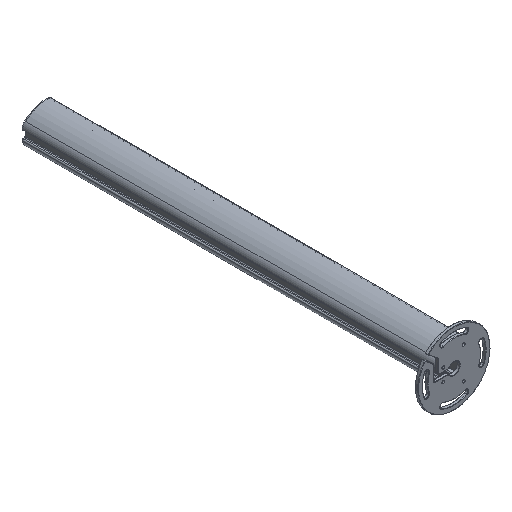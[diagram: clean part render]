
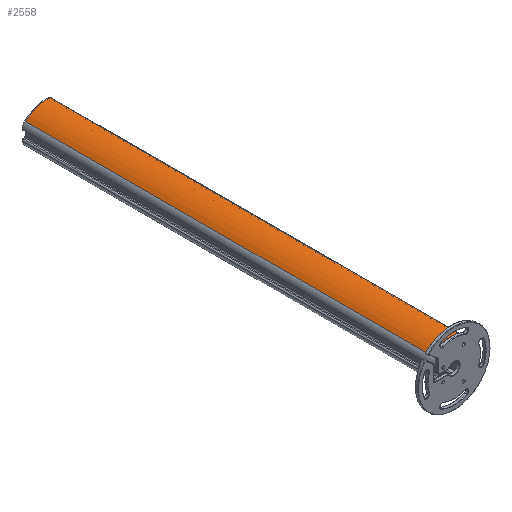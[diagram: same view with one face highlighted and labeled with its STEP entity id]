
A CAD part, isometric view. The second image highlights one B-rep face of the part: STEP entity #2558.
In plain terms, the highlighted cylindrical face has radius 79.059 mm (diameter 158.118 mm), a partial arc.
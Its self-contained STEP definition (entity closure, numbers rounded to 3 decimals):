
#72=CARTESIAN_POINT('',(24.886,-545.,-29.268));
#73=DIRECTION('',(0.,1.,0.));
#74=DIRECTION('',(-0.694,0.,0.72));
#75=AXIS2_PLACEMENT_3D('',#72,#73,#74);
#646=DIRECTION('',(0.,1.,0.));
#647=VECTOR('',#646,1090.);
#648=CARTESIAN_POINT('',(35.448,-545.,49.083));
#649=LINE('',#648,#647);
#650=DIRECTION('',(0.,1.,0.));
#651=VECTOR('',#650,1090.);
#652=CARTESIAN_POINT('',(-30.018,-545.,27.617));
#653=LINE('',#652,#651);
#1015=CARTESIAN_POINT('',(24.886,545.,-29.268));
#1016=DIRECTION('',(0.,1.,0.));
#1017=DIRECTION('',(-0.694,0.,0.72));
#1018=AXIS2_PLACEMENT_3D('',#1015,#1016,#1017);
#1116=CARTESIAN_POINT('',(-30.018,-545.,27.617));
#1117=VERTEX_POINT('',#1116);
#1118=CARTESIAN_POINT('',(35.448,-545.,49.083));
#1119=VERTEX_POINT('',#1118);
#1282=CARTESIAN_POINT('',(-30.018,545.,27.617));
#1283=VERTEX_POINT('',#1282);
#1284=CARTESIAN_POINT('',(35.448,545.,49.083));
#1285=VERTEX_POINT('',#1284);
#2545=CARTESIAN_POINT('',(24.886,-545.,-29.268));
#2546=DIRECTION('',(0.,1.,0.));
#2547=DIRECTION('',(1.,0.,0.));
#2548=AXIS2_PLACEMENT_3D('',#2545,#2546,#2547);
#2549=CYLINDRICAL_SURFACE('',#2548,79.059);
#2550=ORIENTED_EDGE('',*,*,#1453,.F.);
#2552=ORIENTED_EDGE('',*,*,#2551,.T.);
#2554=ORIENTED_EDGE('',*,*,#2553,.T.);
#2555=ORIENTED_EDGE('',*,*,#2537,.F.);
#2556=EDGE_LOOP('',(#2550,#2552,#2554,#2555));
#2557=FACE_OUTER_BOUND('',#2556,.F.);
#2558=ADVANCED_FACE('',(#2557),#2549,.T.);
#76=CIRCLE('',#75,79.059);
#1019=CIRCLE('',#1018,79.059);
#1453=EDGE_CURVE('',#1117,#1119,#76,.T.);
#2537=EDGE_CURVE('',#1119,#1285,#649,.T.);
#2551=EDGE_CURVE('',#1117,#1283,#653,.T.);
#2553=EDGE_CURVE('',#1283,#1285,#1019,.T.);
